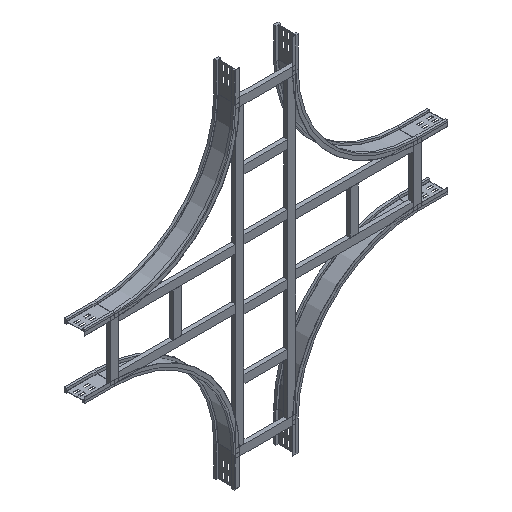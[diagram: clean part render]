
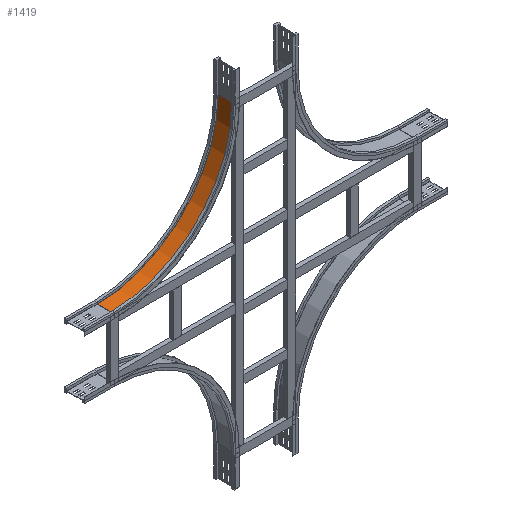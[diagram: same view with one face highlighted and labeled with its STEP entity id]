
A CAD part, isometric view. The second image highlights one B-rep face of the part: STEP entity #1419.
In plain terms, the highlighted cylindrical face has radius 600 mm (diameter 1200 mm), a partial arc.
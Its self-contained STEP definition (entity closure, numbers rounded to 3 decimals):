
#42 = LINE ( 'NONE', #3008, #2454 ) ;
#223 = AXIS2_PLACEMENT_3D ( 'NONE', #677, #1971, #2163 ) ;
#261 = VERTEX_POINT ( 'NONE', #1813 ) ;
#429 = DIRECTION ( 'NONE',  ( 0., 0., -1. ) ) ;
#453 = DIRECTION ( 'NONE',  ( -1., 0., 0. ) ) ;
#665 = CARTESIAN_POINT ( 'NONE',  ( 591., 88., -150. ) ) ;
#677 = CARTESIAN_POINT ( 'NONE',  ( 591., 12., -150. ) ) ;
#705 = VERTEX_POINT ( 'NONE', #1349 ) ;
#730 = CARTESIAN_POINT ( 'NONE',  ( -9., 12., -150. ) ) ;
#866 = CARTESIAN_POINT ( 'NONE',  ( -9., 88., -150. ) ) ;
#886 = EDGE_CURVE ( 'NONE', #261, #2270, #1645, .T. ) ;
#938 = EDGE_CURVE ( 'NONE', #2980, #705, #2902, .T. ) ;
#967 = CARTESIAN_POINT ( 'NONE',  ( 591., 0., -150. ) ) ;
#1233 = ORIENTED_EDGE ( 'NONE', *, *, #3214, .T. ) ;
#1307 = EDGE_CURVE ( 'NONE', #261, #2980, #1465, .T. ) ;
#1349 = CARTESIAN_POINT ( 'NONE',  ( 591., 88., -750. ) ) ;
#1419 = ADVANCED_FACE ( 'NONE', ( #3176 ), #1441, .F. ) ;
#1441 = CYLINDRICAL_SURFACE ( 'NONE', #2584, 600. ) ;
#1465 = LINE ( 'NONE', #730, #1851 ) ;
#1480 = AXIS2_PLACEMENT_3D ( 'NONE', #665, #2215, #453 ) ;
#1551 = DIRECTION ( 'NONE',  ( 0., 1., 0. ) ) ;
#1645 = CIRCLE ( 'NONE', #223, 600. ) ;
#1813 = CARTESIAN_POINT ( 'NONE',  ( -9., 12., -150. ) ) ;
#1851 = VECTOR ( 'NONE', #2165, 1000. ) ;
#1971 = DIRECTION ( 'NONE',  ( 0., -1., 0. ) ) ;
#2163 = DIRECTION ( 'NONE',  ( -1., 0., 0. ) ) ;
#2165 = DIRECTION ( 'NONE',  ( 0., 1., 0. ) ) ;
#2187 = DIRECTION ( 'NONE',  ( 0., -1., 0. ) ) ;
#2193 = CARTESIAN_POINT ( 'NONE',  ( 591., 12., -750. ) ) ;
#2215 = DIRECTION ( 'NONE',  ( 0., -1., 0. ) ) ;
#2270 = VERTEX_POINT ( 'NONE', #2193 ) ;
#2454 = VECTOR ( 'NONE', #1551, 1000. ) ;
#2486 = ORIENTED_EDGE ( 'NONE', *, *, #886, .T. ) ;
#2568 = ORIENTED_EDGE ( 'NONE', *, *, #1307, .F. ) ;
#2584 = AXIS2_PLACEMENT_3D ( 'NONE', #967, #2187, #429 ) ;
#2795 = ORIENTED_EDGE ( 'NONE', *, *, #938, .F. ) ;
#2811 = EDGE_LOOP ( 'NONE', ( #2795, #2568, #2486, #1233 ) ) ;
#2902 = CIRCLE ( 'NONE', #1480, 600. ) ;
#2980 = VERTEX_POINT ( 'NONE', #866 ) ;
#3008 = CARTESIAN_POINT ( 'NONE',  ( 591., 12., -750. ) ) ;
#3176 = FACE_OUTER_BOUND ( 'NONE', #2811, .T. ) ;
#3214 = EDGE_CURVE ( 'NONE', #2270, #705, #42, .T. ) ;
